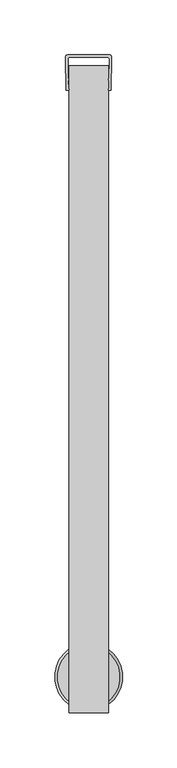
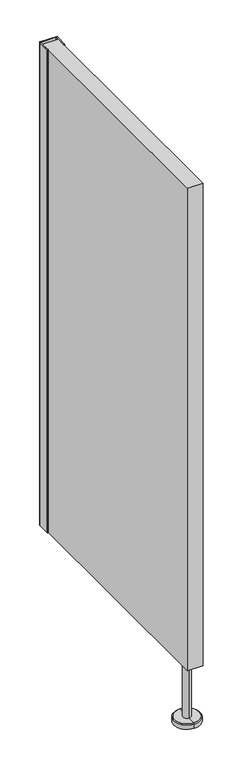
"""IFC4 building model written with IfcOpenShell, lengths in millimetres: proxy geometry, Partition_Urinal_Screen-Bradley_Corp-EuroStyle_LOFT : Partition_Urinal_Screen-Bradley_Corp-EuroStyle_LOFT."""

from ifc_helpers import new_model, si_unit, point, frame, frame_2d, origin, place, context, project, spatial, polyline, circle_curve, trimmed, segment, composite_curve, outline, extrude, source, transform, mapped, element, save
from ifc_brep_helpers import plane_surface, cylinder_surface, revolved_surface, advanced_brep


def specialty_equipment_1f7793d3(model_context):
    return source(origin(), model_context, "Body", "SolidModel", [
        advanced_brep(
        [(0.0, -558.0000003, 150.114), (0.0, -575.9999997, 150.114), (0.0, -575.9999997, 12.1139993), (0.0, -558.0000003, 12.1139993), (0.0, -567.0, 150.114), (0.0, -536.0000011, 0.1139992), (0.0, -597.9999989, 0.1139992), (0.0, -567.0, 0.1139992), (0.0, -536.0000011, 10.1139993), (0.0, -597.9999989, 10.1139993), (0.0, -538.002413, 12.1139993), (0.0, -595.997587, 12.1139993)],
        [
            (0, 1, circle_curve(frame((0.0, -567.0, 150.114), z_axis=(0.0, 0.0, -1.0), x_axis=(0.0, -1.0, 0.0)), 8.9999997)),
            (1, 2),
            (2, 3, circle_curve(frame((0.0, -567.0, 12.1139993), z_axis=(0.0, 0.0, 1.0), x_axis=(0.0, -1.0, 0.0)), 8.9999997)),
            (3, 0),
            (1, 0, circle_curve(frame((0.0, -567.0, 150.114), z_axis=(0.0, 0.0, -1.0), x_axis=(0.0, -1.0, 0.0)), 8.9999997)),
            (3, 2, circle_curve(frame((0.0, -567.0, 12.1139993), z_axis=(0.0, 0.0, 1.0), x_axis=(0.0, -1.0, 0.0)), 8.9999997)),
            (4, 1),
            (0, 4),
            (5, 6, circle_curve(frame((0.0, -567.0, 0.1139992), z_axis=(0.0, 0.0, -1.0), x_axis=(0.0, -1.0, 0.0)), 30.9999989)),
            (6, 7),
            (7, 5),
            (6, 5, circle_curve(frame((0.0, -567.0, 0.1139992), z_axis=(0.0, 0.0, -1.0), x_axis=(0.0, -1.0, 0.0)), 30.9999989)),
            (8, 9, circle_curve(frame((0.0, -567.0, 10.1139993), z_axis=(0.0, 0.0, -1.0), x_axis=(0.0, -1.0, 0.0)), 30.9999989)),
            (9, 6),
            (5, 8),
            (9, 8, circle_curve(frame((0.0, -567.0, 10.1139993), z_axis=(0.0, 0.0, -1.0), x_axis=(0.0, -1.0, 0.0)), 30.9999989)),
            (10, 11, circle_curve(frame((0.0, -567.0, 12.1139993), z_axis=(0.0, 0.0, -1.0), x_axis=(0.0, -1.0, 0.0)), 28.997587)),
            (11, 9),
            (8, 10),
            (11, 10, circle_curve(frame((0.0, -567.0, 12.1139993), z_axis=(0.0, 0.0, -1.0), x_axis=(0.0, -1.0, 0.0)), 28.997587)),
            (2, 11),
            (10, 3),
        ],
        [
            cylinder_surface(frame((0.0, -567.0, 0.1139992), z_axis=(0.0, 0.0, 1.0), x_axis=(0.0, -1.0, 0.0)), 8.9999997),
            plane_surface(frame((0.0, -567.0, 150.114), z_axis=(0.0, 0.0, 1.0), x_axis=(0.0, -1.0, 0.0))),
            plane_surface(frame((0.0, -567.0, 0.1139992), z_axis=(0.0, 0.0, -1.0), x_axis=(0.0, -1.0, 0.0))),
            cylinder_surface(frame((0.0, -567.0, 0.1139992), z_axis=(0.0, 0.0, 1.0), x_axis=(0.0, -1.0, 0.0)), 30.9999989),
            revolved_surface(polyline([(0.0, -597.9999989, 10.1139993), (0.0, -595.997587, 12.1139993)]), (0.0, -567.0, 0.1139992), (0.0, 0.0, 1.0)),
            plane_surface(frame((0.0, -567.0, 12.1139993), z_axis=(0.0, 0.0, 1.0), x_axis=(0.0, -1.0, 0.0))),
        ],
        [
            (0, [[1, 2, 3, 4]]),
            (0, [[5, -4, 6, -2]]),
            (1, [[7, -1, 8]]),
            (1, [[-8, -5, -7]]),
            (2, [[9, 10, 11]]),
            (2, [[12, -11, -10]]),
            (3, [[13, 14, -9, 15]]),
            (3, [[16, -15, -12, -14]]),
            (4, [[17, 18, -13, 19]]),
            (4, [[20, -19, -16, -18]]),
            (5, [[-3, 21, -17, 22]]),
            (5, [[-6, -22, -20, -21]]),
        ],
    ),
        extrude(outline(composite_curve([segment(polyline([(20.4914455, -32.5000002), (18.99286, -32.5000002)]), True, "CONTINUOUS"), segment(trimmed(circle_curve(frame_2d((18.9964273, -31.5009082)), 0.9990984), [point((18.99286, -32.5000002))], [point((18.5227747, -30.6212202))], False, "CARTESIAN"), True, "CONTINUOUS"), segment(polyline([(18.5227747, -30.6212202), (18.6438847, -23.3575702)]), True, "CONTINUOUS"), segment(trimmed(circle_curve(frame_2d((19.1614306, -22.5000551)), 1.0015917), [point((18.6438847, -23.3575702))], [point((18.6727647, -21.6257602))], False, "CARTESIAN"), True, "CONTINUOUS"), segment(polyline([(18.6727647, -21.6257602), (18.9668202, -3.9895469)]), True, "CONTINUOUS"), segment(trimmed(circle_curve(frame_2d((16.9666283, -4.0002204)), 2.0002204), [point((18.9668202, -3.9895469))], [point((16.9666283, -2.0))], True, "CARTESIAN"), True, "CONTINUOUS"), segment(polyline([(16.9666283, -2.0), (-16.9176707, -2.0)]), True, "CONTINUOUS"), segment(trimmed(circle_curve(frame_2d((-16.9666903, -3.9990939)), 1.9996948), [point((-16.9176707, -2.0))], [point((-18.9663849, -4.0))], True, "CARTESIAN"), True, "CONTINUOUS"), segment(polyline([(-18.9663849, -4.0), (-18.6723335, -21.6260013)]), True, "CONTINUOUS"), segment(trimmed(circle_curve(frame_2d((-19.1614306, -22.5000551)), 1.0015917), [point((-18.6723335, -21.6260013))], [point((-18.6438847, -23.3575702))], False, "CARTESIAN"), True, "CONTINUOUS"), segment(polyline([(-18.6438847, -23.3575702), (-18.5227747, -30.6212202)]), True, "CONTINUOUS"), segment(trimmed(circle_curve(frame_2d((-18.9964273, -31.5009082)), 0.9990984), [point((-18.5227747, -30.6212202))], [point((-18.99286, -32.5000002))], False, "CARTESIAN"), True, "CONTINUOUS"), segment(polyline([(-18.99286, -32.5000002), (-20.4914455, -32.5000002), (-20.9997847, -2.02918)]), True, "CONTINUOUS"), segment(trimmed(circle_curve(frame_2d((-18.9706047, -2.02918)), 2.02918), [point((-20.9997847, -2.02918))], [point((-18.9706047, 0.0))], False, "CARTESIAN"), True, "CONTINUOUS"), segment(polyline([(-18.9706047, 0.0), (18.9706047, 0.0)]), True, "CONTINUOUS"), segment(trimmed(circle_curve(frame_2d((18.9706047, -2.02918)), 2.02918), [point((18.9706047, 0.0))], [point((20.9997847, -2.02918))], False, "CARTESIAN"), True, "CONTINUOUS"), segment(polyline([(20.9997847, -2.02918), (20.4914455, -32.5000002)]), True, "CONTINUOUS")], self_intersect=False)), frame((0.0, 0.0, 150.114), z_axis=(0.0, 0.0, 1.0), x_axis=(1.0, 0.0, 0.0)), (0.0, 0.0, 1.0), 1199.8523438),
        extrude(outline(polyline([(18.0101626, -9.999928), (18.0101626, -600.0), (-18.0101626, -600.0), (-18.0101626, -9.999928), (18.0101626, -9.999928)])), frame((0.0, 0.0, 150.114), z_axis=(0.0, 0.0, 1.0), x_axis=(1.0, 0.0, 0.0)), (0.0, 0.0, 1.0), 1199.8523437),
    ])


if __name__ == "__main__":
    model = new_model("IFC4")
    model_context = context("Model", 3, world=origin())
    ifc_project = project(units=[si_unit("LENGTHUNIT", "METRE", prefix="MILLI")], contexts=[model_context])
    site = spatial("IfcSite", under=ifc_project)
    building = spatial("IfcBuilding", under=site)
    placement = place(None, origin())
    specialty_equipment_shape = specialty_equipment_1f7793d3(model_context)
    element("IfcBuildingElementProxy", 1, Name="Partition_Urinal_Screen-Bradley_Corp-EuroStyle_LOFT : Partition_Urinal_Screen-Bradley_Corp-EuroStyle_LOFT", ObjectType="Partition_Urinal_Screen-Bradley_Corp-EuroStyle_LOFT : Partition_Urinal_Screen-Bradley_Corp-EuroStyle_LOFT", at=placement, inside=building, context=model_context, shape_type="MappedRepresentation", body=[
        mapped(specialty_equipment_shape, transform((0.0, 0.0, 0.0), x_axis=(1.0, 0.0, 0.0), y_axis=(0.0, 1.0, 0.0), z_axis=(0.0, 0.0, 1.0))),
    ])
    save(model, "model.ifc")
